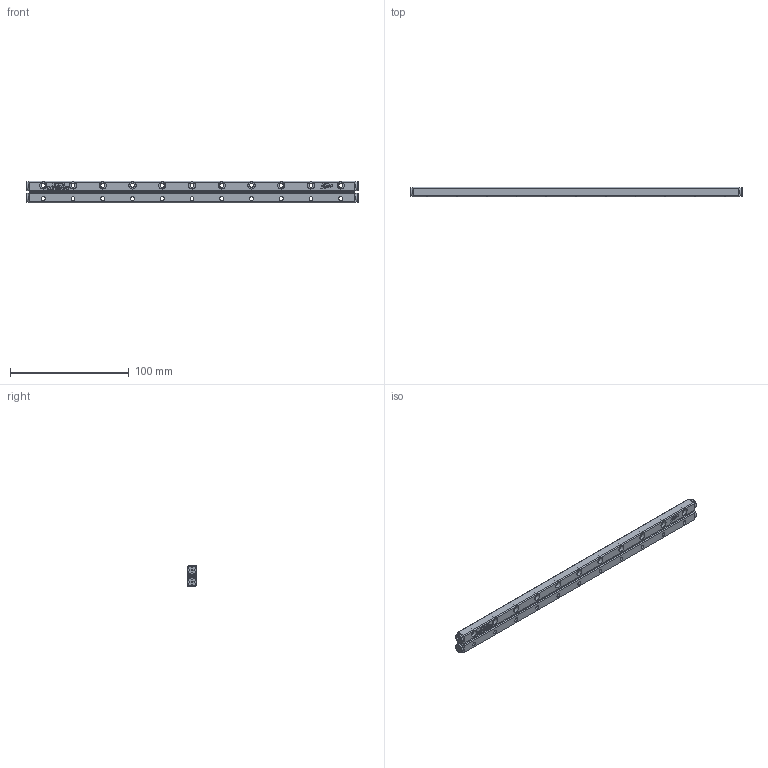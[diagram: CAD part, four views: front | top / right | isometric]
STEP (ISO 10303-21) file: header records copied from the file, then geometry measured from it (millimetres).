
FILE_DESCRIPTION (( 'STEP AP203' ), '1' );
FILE_NAME ('GRV03-275.STEP', '2023-10-20T06:11:16', ( '' ), ( '' ), 'SwSTEP 2.0', 'SolidWorks 2019', '' );
FILE_SCHEMA (( 'CONFIG_CONTROL_DESIGN' ));
Length unit declared in the file: millimetre
Products named in the file (3): GRV03-275-模糊化保持器組; GRV03-275-模糊化軌道; GRV03-275
Assembly tree (3 placements, depth 2):
  GRV03-275
    GRV03-275-模糊化軌道  x2
    GRV03-275-模糊化保持器組
Bounding box: 279 x 8 x 18 mm (x, y, z)
Volume: 33133.6 mm3; surface area: 24079.1 mm2
Topology: 3 solids, 3 shells, 1334 faces, 3292 edges, 2144 vertices
Faces by surface type: plane 986, bspline 122, cylinder 116, torus 74, cone 36
Full cylindrical faces by diameter (mm): 3.3 x22, 6 x22, 7.5 x4
Entity records: 31681 total; most frequent: CARTESIAN_POINT 9548, ORIENTED_EDGE 4608, DIRECTION 4007, EDGE_CURVE 2304, VECTOR 1699, LINE 1699, VERTEX_POINT 1525, EDGE_LOOP 1177
